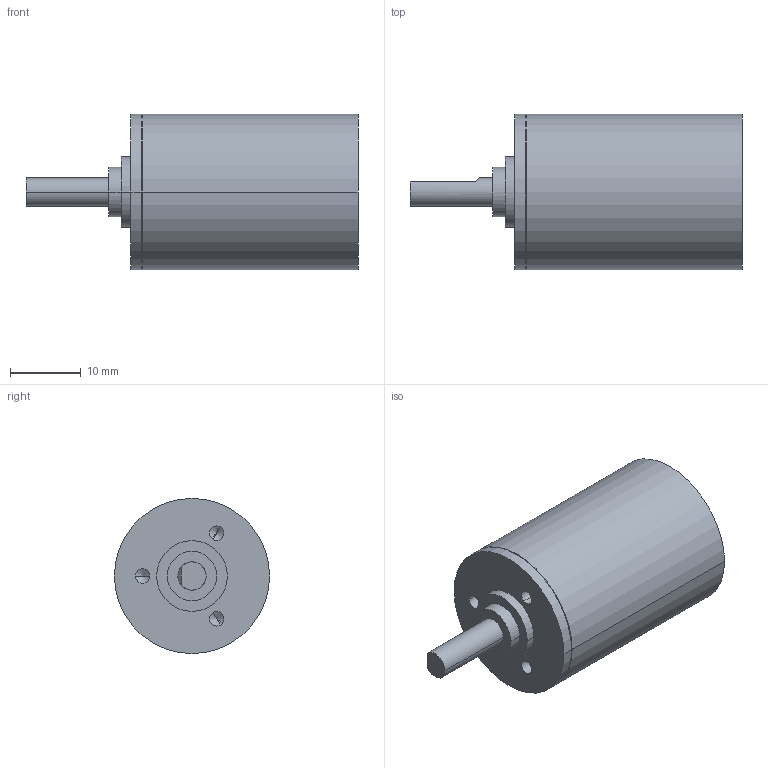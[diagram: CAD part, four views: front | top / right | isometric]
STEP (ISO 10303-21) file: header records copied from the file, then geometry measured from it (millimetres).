
FILE_DESCRIPTION((''),'2;1');
FILE_NAME('3562247','2016-10-04T',('mmagvisi'),(''),'CREO PARAMETRIC BY PTC INC, 2016050','CREO PARAMETRIC BY PTC INC, 2016050','');
FILE_SCHEMA(('CONFIG_CONTROL_DESIGN'));
Length unit declared in the file: millimetre
Products named in the file (1): 3562247
Bounding box: 47.05 x 22 x 22 mm (x, y, z)
Volume: 12492.4 mm3; surface area: 3332.3 mm2
Topology: 1 solids, 1 shells, 33 faces, 72 edges, 41 vertices
Faces by surface type: cylinder 16, cone 10, plane 7
Entity records: 1178 total; most frequent: DIRECTION 164, CARTESIAN_POINT 147, ORIENTED_EDGE 132, AXIS2_PLACEMENT_3D 67, PRESENTATION_STYLE_ASSIGNMENT 67, STYLED_ITEM 67, CURVE_STYLE 66, EDGE_CURVE 66
